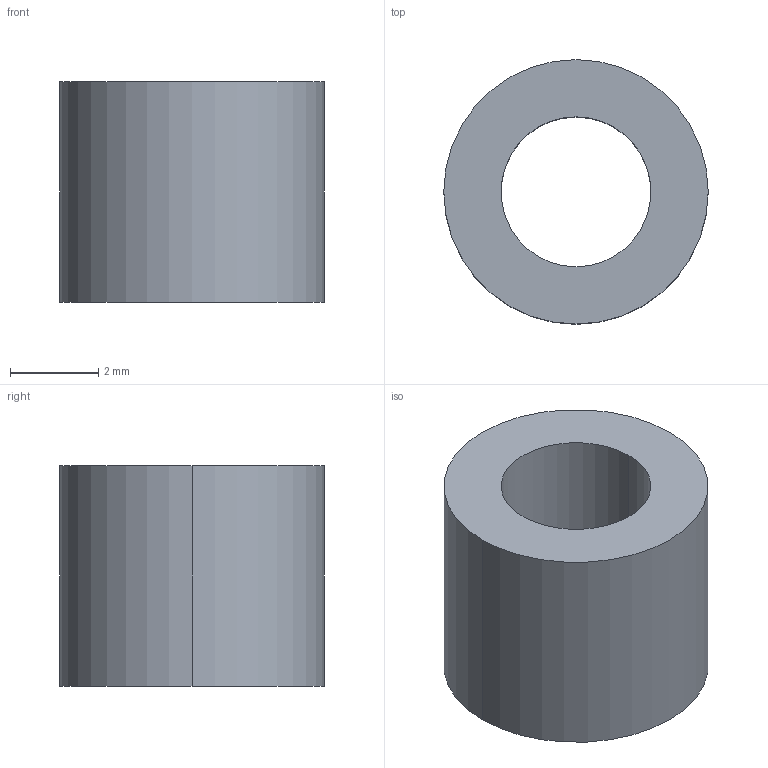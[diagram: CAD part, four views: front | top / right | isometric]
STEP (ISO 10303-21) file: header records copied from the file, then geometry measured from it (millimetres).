
FILE_DESCRIPTION (( 'STEP AP203' ), '1' );
FILE_NAME ('04_m3_rear_sleeve_6x5.step', '2026-10-15T09:23:28', ( '' ), ( '' ), 'SwSTEP 2.0', 'SolidWorks 2025', '' );
FILE_SCHEMA (( 'CONFIG_CONTROL_DESIGN' ));
Length unit declared in the file: millimetre
Products named in the file (1): 04_m3_rear_sleeve_6x5
Bounding box: 6 x 6 x 5 mm (x, y, z)
Volume: 96 mm3; surface area: 186 mm2
Topology: 1 solids, 1 shells, 6 faces, 12 edges, 8 vertices
Faces by surface type: cylinder 4, plane 2
Entity records: 245 total; most frequent: DIRECTION 34, CARTESIAN_POINT 27, ORIENTED_EDGE 24, AXIS2_PLACEMENT_3D 15, EDGE_CURVE 12, PERSON_AND_ORGANIZATION 8, EDGE_LOOP 8, VERTEX_POINT 8
